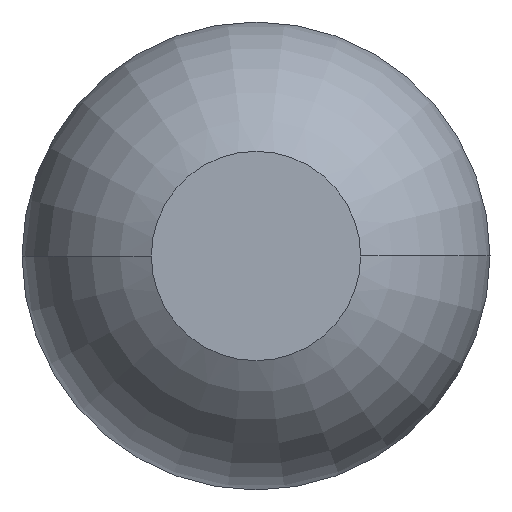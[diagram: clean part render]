
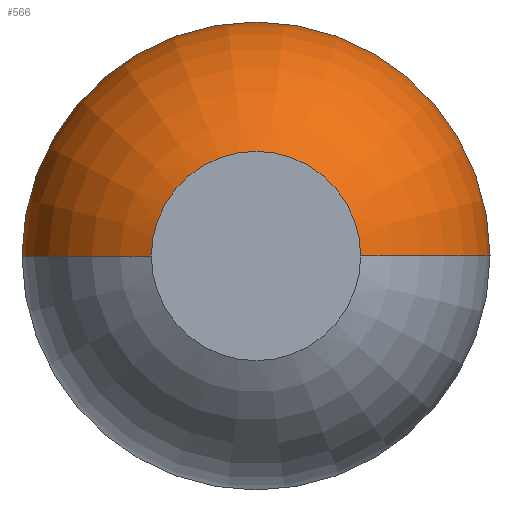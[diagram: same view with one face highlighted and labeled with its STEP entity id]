
A CAD part, left-side view. The second image highlights one B-rep face of the part: STEP entity #566.
In plain terms, the highlighted toroidal (fillet/blend) face has major radius 0.003 mm and minor radius 0.508 mm.
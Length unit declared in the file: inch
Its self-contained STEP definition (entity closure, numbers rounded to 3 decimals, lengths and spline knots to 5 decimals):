
#19 = FACE_OUTER_BOUND ( 'NONE', #784, .T. ) ;
#21 = DIRECTION ( 'NONE',  ( 0., 0., -1. ) ) ;
#47 = VERTEX_POINT ( 'NONE', #395 ) ;
#49 = DIRECTION ( 'NONE',  ( 1., 0., 0. ) ) ;
#64 = DIRECTION ( 'NONE',  ( 1., 0., 0. ) ) ;
#80 = CARTESIAN_POINT ( 'NONE',  ( 0.01792, 0.00013, 0. ) ) ;
#104 = AXIS2_PLACEMENT_3D ( 'NONE', #633, #183, #570 ) ;
#117 = CARTESIAN_POINT ( 'NONE',  ( 0.01792, 0.02013, 0. ) ) ;
#120 = CARTESIAN_POINT ( 'NONE',  ( 0.01792, 0., 0. ) ) ;
#140 = DIRECTION ( 'NONE',  ( -1., 0., 0. ) ) ;
#141 = AXIS2_PLACEMENT_3D ( 'NONE', #191, #706, #401 ) ;
#163 = CIRCLE ( 'NONE', #104, 0.009 ) ;
#183 = DIRECTION ( 'NONE',  ( 1., 0., 0. ) ) ;
#191 = CARTESIAN_POINT ( 'NONE',  ( 0.01792, -0.00013, 0. ) ) ;
#199 = EDGE_CURVE ( 'NONE', #47, #396, #163, .T. ) ;
#248 = AXIS2_PLACEMENT_3D ( 'NONE', #517, #64, #763 ) ;
#263 = CARTESIAN_POINT ( 'NONE',  ( 0.01792, -0.02013, 0. ) ) ;
#300 = DIRECTION ( 'NONE',  ( 0., 1., 0. ) ) ;
#341 = AXIS2_PLACEMENT_3D ( 'NONE', #120, #49, #300 ) ;
#377 = CIRCLE ( 'NONE', #141, 0.02 ) ;
#380 = CIRCLE ( 'NONE', #341, 0.02013 ) ;
#381 = EDGE_CURVE ( 'NONE', #408, #465, #380, .T. ) ;
#395 = CARTESIAN_POINT ( 'NONE',  ( 0., 0.009, 0. ) ) ;
#396 = VERTEX_POINT ( 'NONE', #786 ) ;
#400 = ORIENTED_EDGE ( 'NONE', *, *, #381, .F. ) ;
#401 = DIRECTION ( 'NONE',  ( 0., -1., 0. ) ) ;
#408 = VERTEX_POINT ( 'NONE', #117 ) ;
#465 = VERTEX_POINT ( 'NONE', #263 ) ;
#472 = EDGE_CURVE ( 'NONE', #396, #465, #377, .T. ) ;
#517 = CARTESIAN_POINT ( 'NONE',  ( 0.01792, 0., 0. ) ) ;
#530 = EDGE_CURVE ( 'NONE', #47, #408, #646, .T. ) ;
#532 = ORIENTED_EDGE ( 'NONE', *, *, #199, .T. ) ;
#543 = ORIENTED_EDGE ( 'NONE', *, *, #530, .F. ) ;
#566 = ADVANCED_FACE ( 'NONE', ( #19 ), #575, .T. ) ;
#570 = DIRECTION ( 'NONE',  ( 0., 1., 0. ) ) ;
#575 = TOROIDAL_SURFACE ( 'NONE', #248, 0.00013, 0.02 ) ;
#633 = CARTESIAN_POINT ( 'NONE',  ( 0., 0., 0. ) ) ;
#646 = CIRCLE ( 'NONE', #801, 0.02 ) ;
#706 = DIRECTION ( 'NONE',  ( 0., 0., 1. ) ) ;
#756 = ORIENTED_EDGE ( 'NONE', *, *, #472, .T. ) ;
#763 = DIRECTION ( 'NONE',  ( 0., 1., 0. ) ) ;
#784 = EDGE_LOOP ( 'NONE', ( #532, #756, #400, #543 ) ) ;
#786 = CARTESIAN_POINT ( 'NONE',  ( 0., -0.009, 0. ) ) ;
#801 = AXIS2_PLACEMENT_3D ( 'NONE', #80, #21, #140 ) ;
